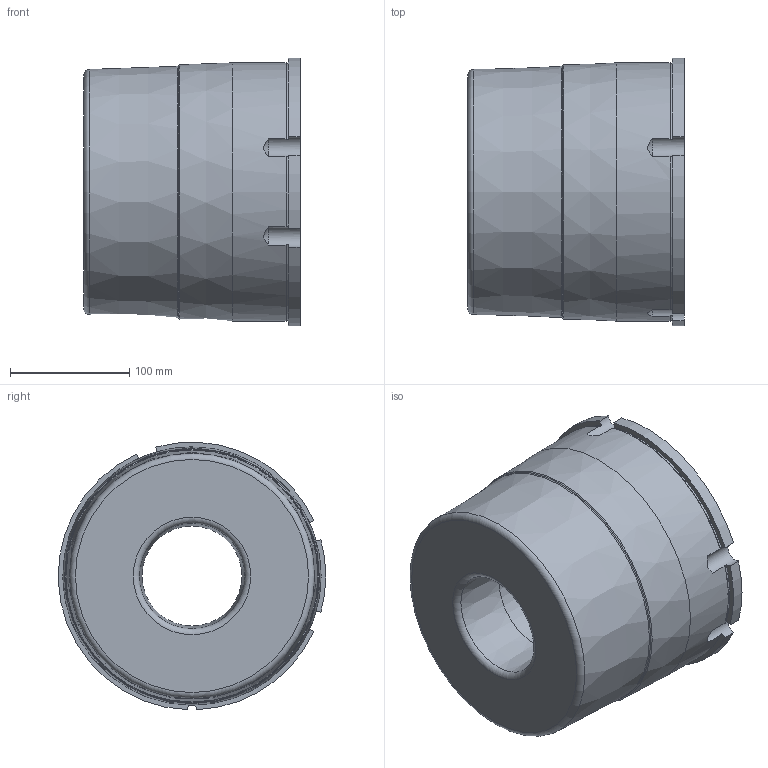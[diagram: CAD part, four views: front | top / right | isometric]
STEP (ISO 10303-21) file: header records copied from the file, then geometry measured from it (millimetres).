
FILE_DESCRIPTION(('STEP AP203'), '1');
FILE_NAME('19 Âñòàâêà', '', ('UNSPECIFIED'), ('UNSPECIFIED'), 'C3D Converter', 'C3D Toolkit', '');
FILE_SCHEMA(('CONFIG_CONTROL_DESIGN'));
Length unit declared in the file: millimetre
Products named in the file (1): ПФН 295 106/19
Bounding box: 181.35 x 223.96 x 223.83 mm (x, y, z)
Volume: 5389205.2 mm3; surface area: 232100.3 mm2
Topology: 1 solids, 1 shells, 33 faces, 84 edges, 53 vertices
Faces by surface type: cylinder 14, plane 8, cone 7, torus 4
Full cylindrical faces by diameter (mm): 83.8 x1, 85 x1, 216.1 x1
Entity records: 1432 total; most frequent: CARTESIAN_POINT 334, DIRECTION 188, ORIENTED_EDGE 146, AXIS2_PLACEMENT_3D 84, EDGE_CURVE 73, VERTEX_POINT 53, CIRCLE 50, EDGE_LOOP 46
